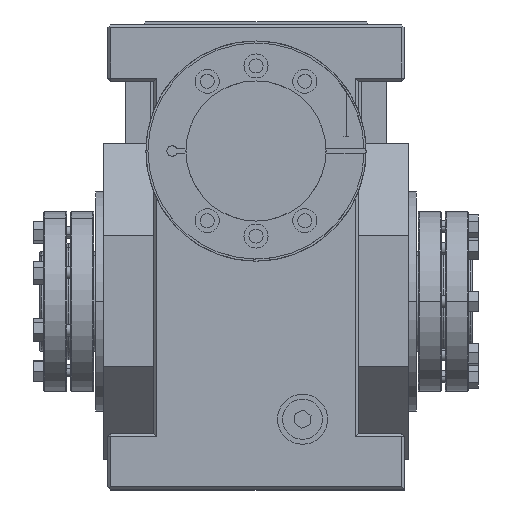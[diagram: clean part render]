
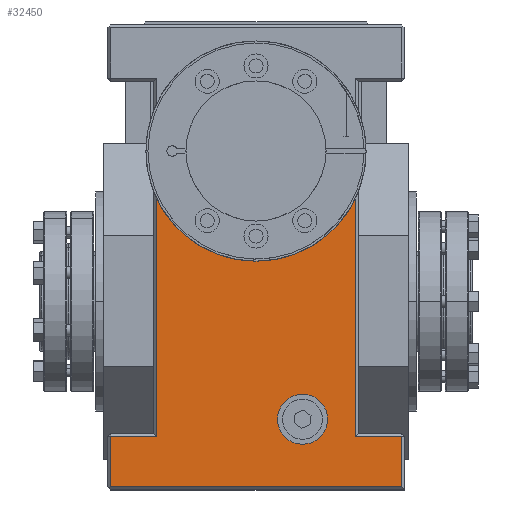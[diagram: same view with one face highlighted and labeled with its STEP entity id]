
A CAD part, top view. The second image highlights one B-rep face of the part: STEP entity #32450.
In plain terms, the highlighted planar face has unit normal (0, 0, 1).
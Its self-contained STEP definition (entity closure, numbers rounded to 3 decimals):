
#498 = LINE ( 'NONE', #8973, #29354 ) ;
#669 = DIRECTION ( 'NONE',  ( 0., -1., 0. ) ) ;
#977 = CARTESIAN_POINT ( 'NONE',  ( -49.5, -67.5, 104. ) ) ;
#995 = LINE ( 'NONE', #23155, #12679 ) ;
#1235 = VERTEX_POINT ( 'NONE', #32814 ) ;
#1439 = VERTEX_POINT ( 'NONE', #977 ) ;
#1620 = CARTESIAN_POINT ( 'NONE',  ( -72.5, -92.5, 104. ) ) ;
#1901 = DIRECTION ( 'NONE',  ( 1., 0., 0. ) ) ;
#1975 = EDGE_CURVE ( 'NONE', #38969, #36217, #48118, .T. ) ;
#2156 = FACE_OUTER_BOUND ( 'NONE', #47617, .T. ) ;
#3011 = EDGE_CURVE ( 'NONE', #42235, #21483, #34701, .T. ) ;
#3818 = ORIENTED_EDGE ( 'NONE', *, *, #22021, .T. ) ;
#4503 = EDGE_CURVE ( 'NONE', #32680, #1235, #30218, .T. ) ;
#4985 = AXIS2_PLACEMENT_3D ( 'NONE', #24018, #19734, #27610 ) ;
#6133 = LINE ( 'NONE', #26258, #50494 ) ;
#7516 = DIRECTION ( 'NONE',  ( -1., 0., 0. ) ) ;
#8973 = CARTESIAN_POINT ( 'NONE',  ( 72.5, -66., 104. ) ) ;
#9143 = DIRECTION ( 'NONE',  ( 0., 1., 0. ) ) ;
#9476 = CARTESIAN_POINT ( 'NONE',  ( 74., -92.5, 104. ) ) ;
#9531 = EDGE_CURVE ( 'NONE', #24455, #49020, #37391, .T. ) ;
#11264 = ORIENTED_EDGE ( 'NONE', *, *, #1975, .F. ) ;
#11414 = FACE_BOUND ( 'NONE', #17908, .T. ) ;
#12399 = AXIS2_PLACEMENT_3D ( 'NONE', #44297, #40698, #44815 ) ;
#12679 = VECTOR ( 'NONE', #19686, 1000. ) ;
#13417 = DIRECTION ( 'NONE',  ( 0., -1., 0. ) ) ;
#13585 = CARTESIAN_POINT ( 'NONE',  ( 23.262, -59., 104. ) ) ;
#13915 = ORIENTED_EDGE ( 'NONE', *, *, #3011, .F. ) ;
#14812 = CARTESIAN_POINT ( 'NONE',  ( 49.5, -67.5, 104. ) ) ;
#15353 = ORIENTED_EDGE ( 'NONE', *, *, #42100, .T. ) ;
#15462 = LINE ( 'NONE', #29374, #28925 ) ;
#17044 = VECTOR ( 'NONE', #7516, 1000. ) ;
#17403 = CARTESIAN_POINT ( 'NONE',  ( 23.262, -59., 104. ) ) ;
#17908 = EDGE_LOOP ( 'NONE', ( #13915, #37211 ) ) ;
#18715 = ORIENTED_EDGE ( 'NONE', *, *, #49590, .T. ) ;
#19686 = DIRECTION ( 'NONE',  ( -1., 0., 0. ) ) ;
#19734 = DIRECTION ( 'NONE',  ( 0., 0., 1. ) ) ;
#19783 = VECTOR ( 'NONE', #25100, 1000. ) ;
#20881 = PLANE ( 'NONE',  #12399 ) ;
#21483 = VERTEX_POINT ( 'NONE', #50759 ) ;
#22021 = EDGE_CURVE ( 'NONE', #38969, #1439, #15462, .T. ) ;
#23155 = CARTESIAN_POINT ( 'NONE',  ( -74., -67.5, 104. ) ) ;
#24018 = CARTESIAN_POINT ( 'NONE',  ( 0., 75., 104. ) ) ;
#24455 = VERTEX_POINT ( 'NONE', #26924 ) ;
#25100 = DIRECTION ( 'NONE',  ( 1., 0., 0. ) ) ;
#25463 = DIRECTION ( 'NONE',  ( 0., 0., 1. ) ) ;
#26258 = CARTESIAN_POINT ( 'NONE',  ( 49.5, 54.409, 104. ) ) ;
#26924 = CARTESIAN_POINT ( 'NONE',  ( 72.5, -67.5, 104. ) ) ;
#27610 = DIRECTION ( 'NONE',  ( 0., 1., 0. ) ) ;
#28205 = VERTEX_POINT ( 'NONE', #35217 ) ;
#28698 = EDGE_CURVE ( 'NONE', #1439, #28205, #995, .T. ) ;
#28925 = VECTOR ( 'NONE', #13417, 1000. ) ;
#29354 = VECTOR ( 'NONE', #9143, 1000. ) ;
#29374 = CARTESIAN_POINT ( 'NONE',  ( -49.5, -66., 104. ) ) ;
#30218 = LINE ( 'NONE', #9476, #19783 ) ;
#31064 = CARTESIAN_POINT ( 'NONE',  ( 74., -67.5, 104. ) ) ;
#31872 = EDGE_CURVE ( 'NONE', #28205, #32680, #45597, .T. ) ;
#32450 = ADVANCED_FACE ( 'NONE', ( #2156, #11414 ), #20881, .F. ) ;
#32680 = VERTEX_POINT ( 'NONE', #1620 ) ;
#32814 = CARTESIAN_POINT ( 'NONE',  ( 72.5, -92.5, 104. ) ) ;
#33019 = DIRECTION ( 'NONE',  ( 1., 0., 0. ) ) ;
#33201 = CARTESIAN_POINT ( 'NONE',  ( -49.5, 51.026, 104. ) ) ;
#34474 = CIRCLE ( 'NONE', #38276, 12.5 ) ;
#34701 = CIRCLE ( 'NONE', #37018, 12.5 ) ;
#35217 = CARTESIAN_POINT ( 'NONE',  ( -72.5, -67.5, 104. ) ) ;
#36217 = VERTEX_POINT ( 'NONE', #44990 ) ;
#37018 = AXIS2_PLACEMENT_3D ( 'NONE', #13585, #45299, #1901 ) ;
#37211 = ORIENTED_EDGE ( 'NONE', *, *, #41522, .F. ) ;
#37391 = LINE ( 'NONE', #31064, #17044 ) ;
#37427 = ORIENTED_EDGE ( 'NONE', *, *, #9531, .T. ) ;
#38158 = ORIENTED_EDGE ( 'NONE', *, *, #4503, .T. ) ;
#38276 = AXIS2_PLACEMENT_3D ( 'NONE', #17403, #25463, #33019 ) ;
#38969 = VERTEX_POINT ( 'NONE', #33201 ) ;
#39421 = VECTOR ( 'NONE', #669, 1000. ) ;
#40698 = DIRECTION ( 'NONE',  ( 0., 0., -1. ) ) ;
#41522 = EDGE_CURVE ( 'NONE', #21483, #42235, #34474, .T. ) ;
#42100 = EDGE_CURVE ( 'NONE', #49020, #36217, #6133, .T. ) ;
#42235 = VERTEX_POINT ( 'NONE', #43021 ) ;
#43021 = CARTESIAN_POINT ( 'NONE',  ( 35.762, -59., 104. ) ) ;
#43514 = DIRECTION ( 'NONE',  ( 0., 1., 0. ) ) ;
#43873 = CARTESIAN_POINT ( 'NONE',  ( -72.5, 138., 104. ) ) ;
#44297 = CARTESIAN_POINT ( 'NONE',  ( 74., 138., 104. ) ) ;
#44815 = DIRECTION ( 'NONE',  ( 0., 1., 0. ) ) ;
#44990 = CARTESIAN_POINT ( 'NONE',  ( 49.5, 51.026, 104. ) ) ;
#45299 = DIRECTION ( 'NONE',  ( 0., 0., 1. ) ) ;
#45597 = LINE ( 'NONE', #43873, #39421 ) ;
#47617 = EDGE_LOOP ( 'NONE', ( #38158, #18715, #37427, #15353, #11264, #3818, #48546, #50247 ) ) ;
#48118 = CIRCLE ( 'NONE', #4985, 55. ) ;
#48546 = ORIENTED_EDGE ( 'NONE', *, *, #28698, .T. ) ;
#49020 = VERTEX_POINT ( 'NONE', #14812 ) ;
#49590 = EDGE_CURVE ( 'NONE', #1235, #24455, #498, .T. ) ;
#50247 = ORIENTED_EDGE ( 'NONE', *, *, #31872, .T. ) ;
#50494 = VECTOR ( 'NONE', #43514, 1000. ) ;
#50759 = CARTESIAN_POINT ( 'NONE',  ( 10.762, -59., 104. ) ) ;
